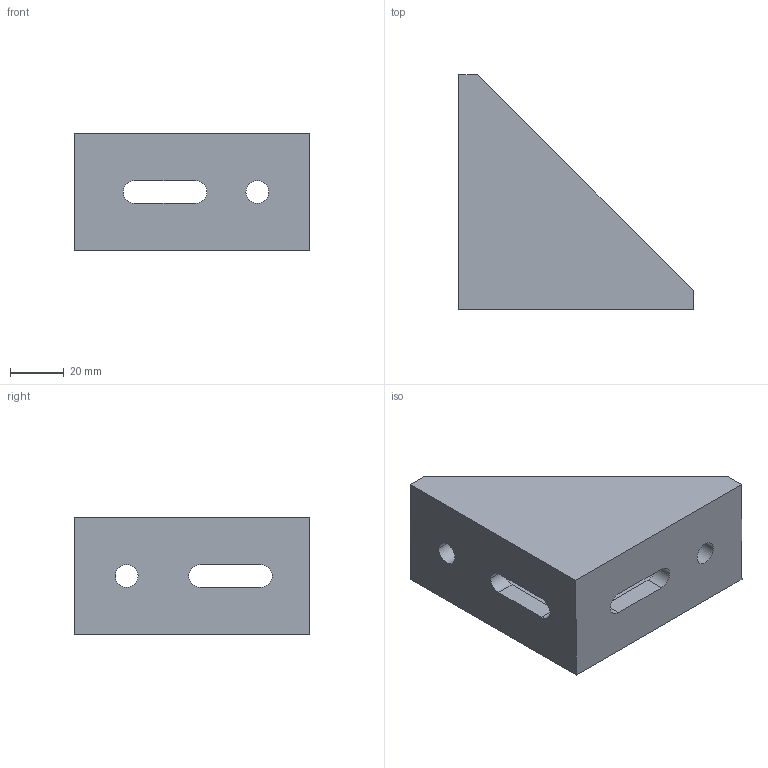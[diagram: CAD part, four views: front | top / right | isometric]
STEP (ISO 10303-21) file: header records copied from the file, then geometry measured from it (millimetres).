
FILE_DESCRIPTION (( 'STEP AP203' ), '1' );
FILE_NAME ('084.305.004.STEP', '2013-01-23T08:41:25', ( 'Alusic' ), ( 'Alusic' ), 'SwSTEP 2.0', 'SolidWorks 2011', '' );
FILE_SCHEMA (( 'CONFIG_CONTROL_DESIGN' ));
Length unit declared in the file: millimetre
Products named in the file (1): 084.305.004
Bounding box: 87 x 87 x 43 mm (x, y, z)
Volume: 90800.6 mm3; surface area: 29604.7 mm2
Topology: 1 solids, 1 shells, 26 faces, 68 edges, 44 vertices
Faces by surface type: plane 16, cylinder 10
Entity records: 893 total; most frequent: DIRECTION 142, CARTESIAN_POINT 139, ORIENTED_EDGE 136, EDGE_CURVE 68, VECTOR 48, LINE 48, AXIS2_PLACEMENT_3D 47, VERTEX_POINT 44
